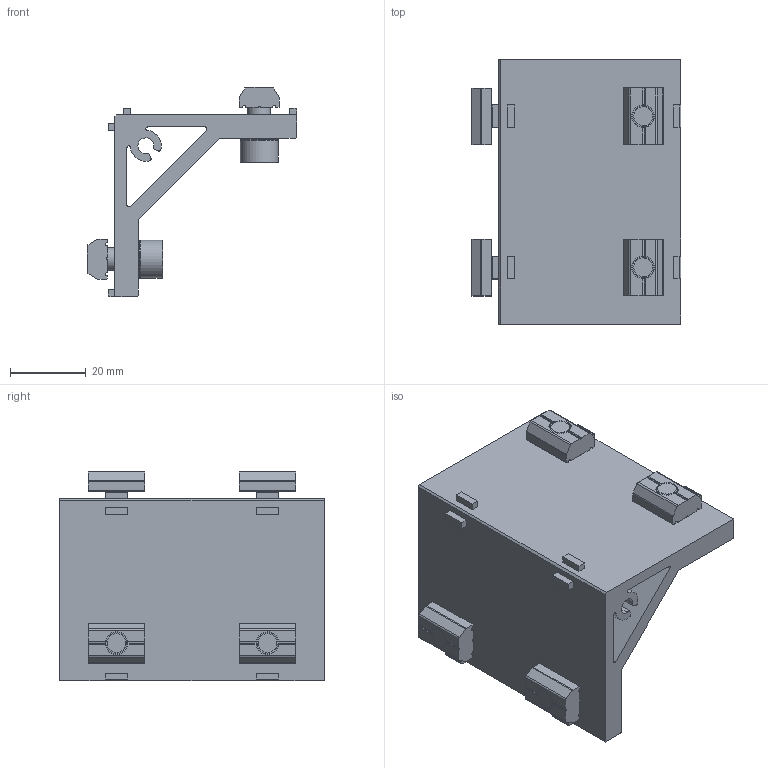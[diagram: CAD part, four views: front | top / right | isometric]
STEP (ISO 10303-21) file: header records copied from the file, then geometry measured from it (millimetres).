
FILE_DESCRIPTION (( 'STEP AP214' ), '1' );
FILE_NAME ('SMBD3-4080T.STEP', '2022-12-13T06:51:18', ( '' ), ( '' ), 'SwSTEP 2.0', 'SolidWorks 2018', '' );
FILE_SCHEMA (( 'AUTOMOTIVE_DESIGN' ));
Length unit declared in the file: millimetre
Products named in the file (5): SMBD3-4080; SMBD3-4080T; PTS-M6; PTC-M6L14; PTN-M6
Assembly tree (13 placements, depth 2):
  SMBD3-4080T
    SMBD3-4080
    PTN-M6  x4
    PTC-M6L14  x4
    PTS-M6  x4
Bounding box: 55.55 x 70 x 55.55 mm (x, y, z)
Volume: 47019 mm3; surface area: 26560.3 mm2
Topology: 13 solids, 13 shells, 1010 faces, 2940 edges, 1952 vertices
Faces by surface type: plane 827, cylinder 159, cone 24
Entity records: 10601 total; most frequent: CARTESIAN_POINT 1900, DIRECTION 1801, ORIENTED_EDGE 1794, EDGE_CURVE 897, AXIS2_PLACEMENT_3D 601, VECTOR 599, LINE 599, VERTEX_POINT 596
